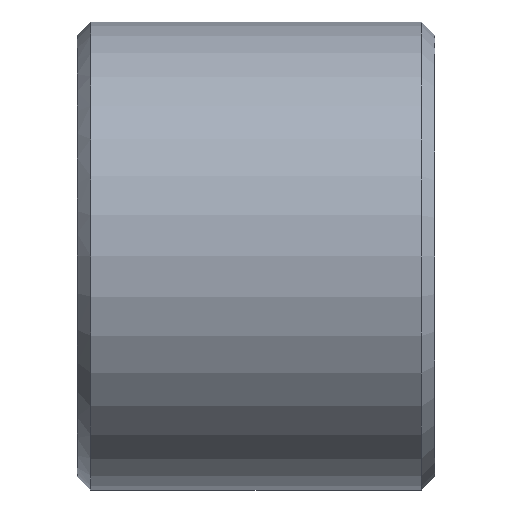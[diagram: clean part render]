
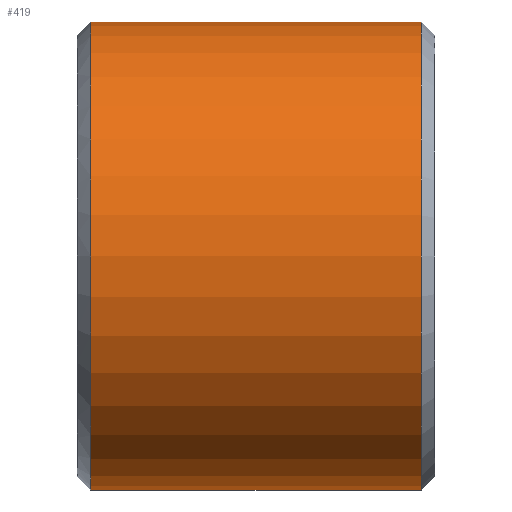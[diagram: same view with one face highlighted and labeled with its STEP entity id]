
A CAD part, front view. The second image highlights one B-rep face of the part: STEP entity #419.
In plain terms, the highlighted cylindrical face has radius 17 mm (diameter 34 mm), a partial arc.
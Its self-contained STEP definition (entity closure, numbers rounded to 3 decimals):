
#231=CARTESIAN_POINT('Vertex',(1.,0.,-17.)) ;
#238=CARTESIAN_POINT('Vertex',(1.,0.,17.)) ;
#267=CARTESIAN_POINT('Axis2P3D Location',(1.,0.,0.)) ;
#271=CARTESIAN_POINT('Vertex',(1.,-17.,0.)) ;
#274=CARTESIAN_POINT('Axis2P3D Location',(1.,0.,0.)) ;
#359=CARTESIAN_POINT('Line Origine',(26.,0.,17.)) ;
#363=CARTESIAN_POINT('Vertex',(25.,0.,17.)) ;
#377=CARTESIAN_POINT('Vertex',(25.,0.,-17.)) ;
#380=CARTESIAN_POINT('Line Origine',(26.,0.,-17.)) ;
#394=CARTESIAN_POINT('Axis2P3D Location',(26.,0.,0.)) ;
#399=CARTESIAN_POINT('Axis2P3D Location',(25.,0.,0.)) ;
#403=CARTESIAN_POINT('Vertex',(25.,-17.,0.)) ;
#406=CARTESIAN_POINT('Axis2P3D Location',(25.,0.,0.)) ;
#268=DIRECTION('Axis2P3D Direction',(1.,0.,-0.)) ;
#275=DIRECTION('Axis2P3D Direction',(1.,0.,-0.)) ;
#360=DIRECTION('Vector Direction',(-1.,0.,0.)) ;
#381=DIRECTION('Vector Direction',(-1.,0.,0.)) ;
#395=DIRECTION('Axis2P3D Direction',(-1.,-0.,-0.)) ;
#396=DIRECTION('Axis2P3D XDirection',(0.,0.,-1.)) ;
#400=DIRECTION('Axis2P3D Direction',(-1.,-0.,-0.)) ;
#407=DIRECTION('Axis2P3D Direction',(-1.,-0.,-0.)) ;
#269=AXIS2_PLACEMENT_3D('Circle Axis2P3D',#267,#268,$) ;
#276=AXIS2_PLACEMENT_3D('Circle Axis2P3D',#274,#275,$) ;
#397=AXIS2_PLACEMENT_3D('Cylinder Axis2P3D',#394,#395,#396) ;
#401=AXIS2_PLACEMENT_3D('Circle Axis2P3D',#399,#400,$) ;
#408=AXIS2_PLACEMENT_3D('Circle Axis2P3D',#406,#407,$) ;
#412=ORIENTED_EDGE('',*,*,#384,.T.) ;
#413=ORIENTED_EDGE('',*,*,#405,.F.) ;
#414=ORIENTED_EDGE('',*,*,#410,.F.) ;
#415=ORIENTED_EDGE('',*,*,#365,.T.) ;
#416=ORIENTED_EDGE('',*,*,#278,.T.) ;
#417=ORIENTED_EDGE('',*,*,#273,.T.) ;
#361=VECTOR('Line Direction',#360,1.) ;
#382=VECTOR('Line Direction',#381,1.) ;
#419=ADVANCED_FACE('352-25X26',(#418),#398,.T.) ;
#270=CIRCLE('generated circle',#269,17.) ;
#277=CIRCLE('generated circle',#276,17.) ;
#402=CIRCLE('generated circle',#401,17.) ;
#409=CIRCLE('generated circle',#408,17.) ;
#398=CYLINDRICAL_SURFACE('generated cylinder',#397,17.) ;
#273=EDGE_CURVE('',#272,#232,#270,.T.) ;
#278=EDGE_CURVE('',#239,#272,#277,.T.) ;
#365=EDGE_CURVE('',#364,#239,#362,.T.) ;
#384=EDGE_CURVE('',#232,#378,#383,.F.) ;
#405=EDGE_CURVE('',#404,#378,#402,.F.) ;
#410=EDGE_CURVE('',#364,#404,#409,.F.) ;
#411=EDGE_LOOP('',(#412,#413,#414,#415,#416,#417)) ;
#418=FACE_OUTER_BOUND('',#411,.T.) ;
#362=LINE('Line',#359,#361) ;
#383=LINE('Line',#380,#382) ;
#232=VERTEX_POINT('',#231) ;
#239=VERTEX_POINT('',#238) ;
#272=VERTEX_POINT('',#271) ;
#364=VERTEX_POINT('',#363) ;
#378=VERTEX_POINT('',#377) ;
#404=VERTEX_POINT('',#403) ;
